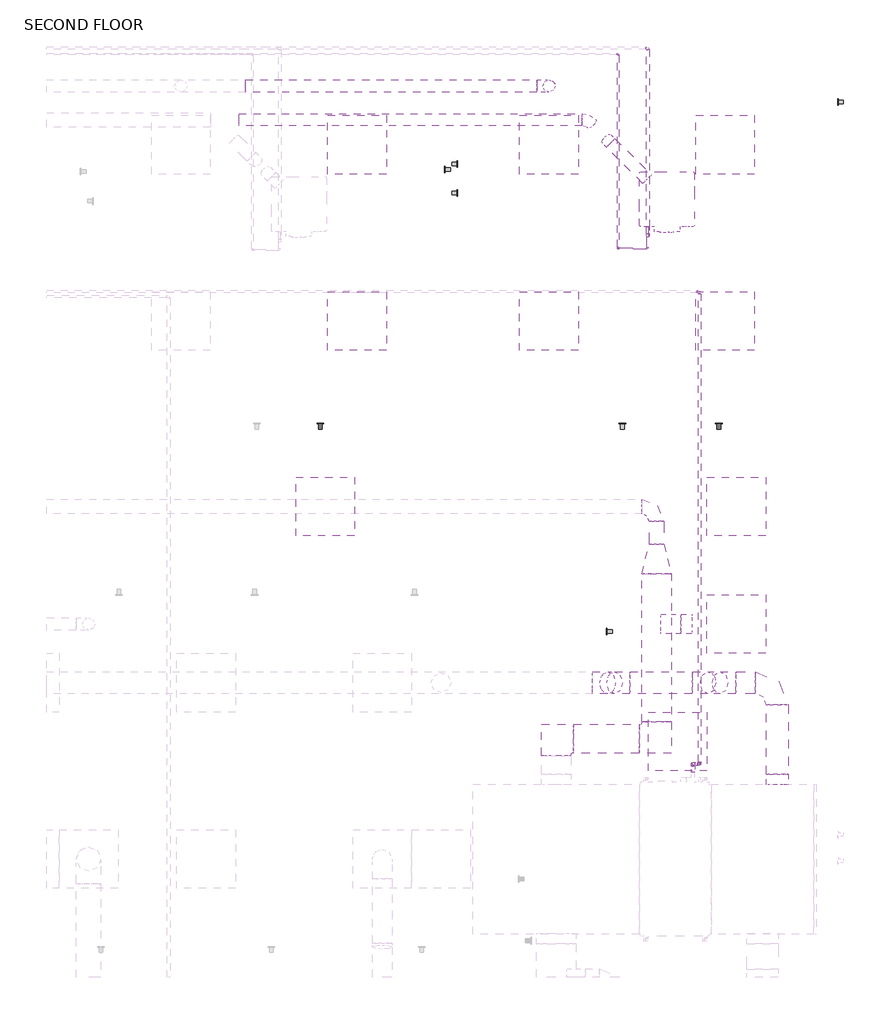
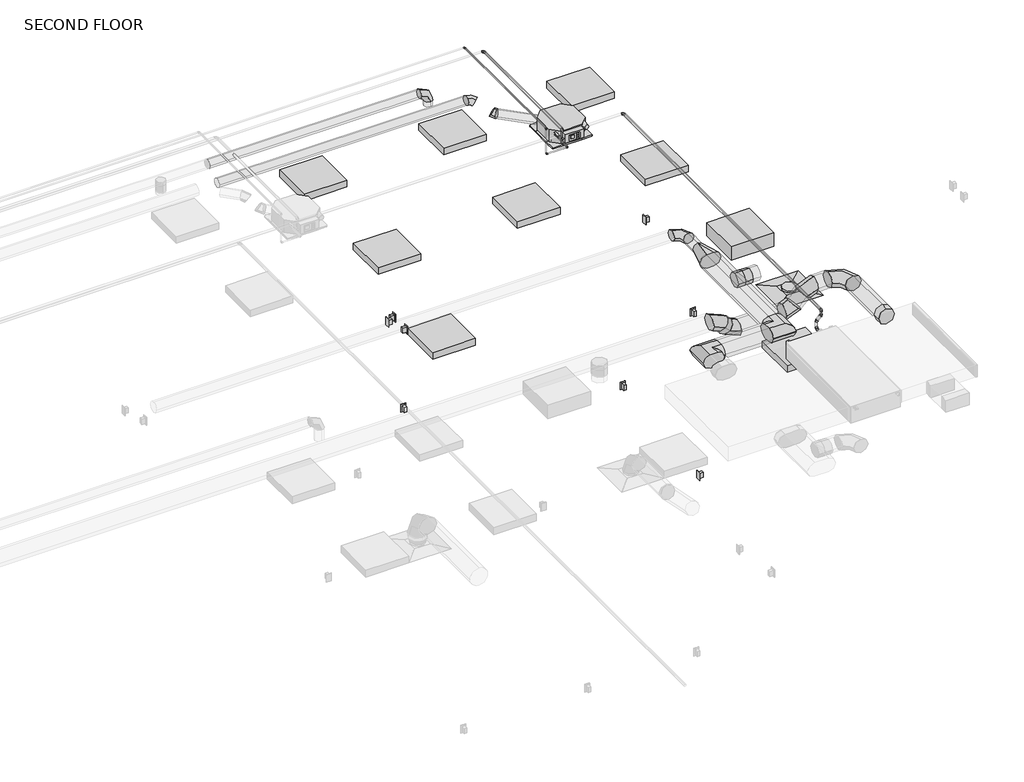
# One storey, part 12 of 12: 14 duct fittings, 13 duct segments, 13 pipe fittings, 11 pipe segments, 9 light fixtures, 6 proxies, 2 switching devices, 1 air terminal, 1 electric appliance.
"""IFC4 building model written with IfcOpenShell, lengths in millimetres."""

from ifc_helpers import new_model, si_unit, point, frame, frame_2d, origin, place, context, project, spatial, polyline, circle_curve, trimmed, segment, composite_curve, outline, extrude, transform, mapped, element, save
from components import air_terminal_e9020785, mechanical_equipment_2d84379e, duplex_receptacle_countertop_10251bba, oval_elbow_mitered_standard_b72006ba, oval_to_round_transition_length_standard_34fdf921, round_elbow_1_d_df495868, round_elbow_1_d_b37ad80b, round_elbow_1_d_c80420c1, round_elbow_1_d_2e2412f0, round_elbow_1_d_fb0a9a06, round_elbow_1_d_45990e82, round_takeoff_standard_affb11f8, round_takeoff_standard_bde3aeed, telephone_outlet_data_plain_18c24199, troffer_corner_insert_2x2_3_lamp_emergency_29e3a813, troffer_corner_insert_2x2_3lamp_e67c7f8f, elbow_generic_standard_1964ee4a, elbow_generic_standard_a6ae4ebe, elbow_generic_standard_39713109, elbow_generic_standard_c06ac706, elbow_generic_standard_a088f956, transition_generic_standard_64286003

model = new_model("IFC4")

# Units and contexts
model_context = context("Model", 3, world=origin())
ifc_project = project(units=[si_unit("LENGTHUNIT", "METRE", prefix="MILLI")], contexts=[model_context])

# Site, building, storey
site = spatial("IfcSite", under=ifc_project)
building = spatial("IfcBuilding", under=site)
storey = spatial("IfcBuildingStorey", under=building, Name="SECOND FLOOR", Elevation=34544.0)

# Air terminal
placement = place(None, origin())
air_terminal_shape = air_terminal_e9020785(model_context)
element("IfcAirTerminal", 1, ObjectType="Supply Diffuser - Rectangular Face Round Neck - Hosted : 24\"x24\" Face 8\" Neck - Hosted", at=placement, inside=storey, context=model_context, shape_type="MappedRepresentation", body=[
    mapped(air_terminal_shape, transform((12392.9795393, 1686.9195005, 37287.2), x_axis=(-1.0, 0.0, 0.0), y_axis=(0.0, 1.0, 0.0), z_axis=(0.0, 0.0, -1.0))),
])

# Proxies
mechanical_equipment_shape = mechanical_equipment_2d84379e(model_context)
element("IfcBuildingElementProxy", 2, Name="PLFY-P-NCMU-E_4-way_24x24 : PLFY-P12NCMU-E", ObjectType="PLFY-P-NCMU-E_4-way_24x24 : PLFY-P12NCMU-E", at=placement, inside=storey, context=model_context, shape_type="MappedRepresentation", body=[
    mapped(mechanical_equipment_shape, transform((11673.0482893, 6163.5961456, 37287.2), x_axis=(-1.0, 0.0, 0.0), y_axis=(0.0, 1.0, 0.0), z_axis=(0.0, 0.0, -1.0))),
])
duplex_receptacle_countertop_shape = duplex_receptacle_countertop_10251bba(model_context)
element("IfcBuildingElementProxy", 3, Name="Duplex Receptacle : Standard", ObjectType="Duplex Receptacle : Standard", at=placement, inside=storey, context=model_context, shape_type="MappedRepresentation", body=[
    mapped(duplex_receptacle_countertop_shape, transform((9370.3795393, 6403.4699415, 35001.2), x_axis=(0.0, -1.0, 0.0), y_axis=(0.0, 0.0, 1.0), z_axis=(-1.0, 0.0, 0.0))),
])
element("IfcBuildingElementProxy", 4, Name="Duplex Receptacle : Standard", ObjectType="Duplex Receptacle : Standard", at=placement, inside=storey, context=model_context, shape_type="MappedRepresentation", body=[
    mapped(duplex_receptacle_countertop_shape, transform((9494.2045393, 6160.5030669, 35001.2), x_axis=(0.0, 1.0, 0.0), y_axis=(0.0, 0.0, 1.0), z_axis=(1.0, 0.0, 0.0))),
])
element("IfcBuildingElementProxy", 5, Name="Duplex Receptacle : Standard", ObjectType="Duplex Receptacle : Standard", at=placement, inside=storey, context=model_context, shape_type="MappedRepresentation", body=[
    mapped(duplex_receptacle_countertop_shape, transform((13450.2545393, 7102.8018102, 34696.4), x_axis=(0.0, -1.0, 0.0), y_axis=(0.0, 0.0, 1.0), z_axis=(-1.0, 0.0, 0.0))),
])
element("IfcBuildingElementProxy", 6, Name="Duplex Receptacle : Standard", ObjectType="Duplex Receptacle : Standard", at=placement, inside=storey, context=model_context, shape_type="MappedRepresentation", body=[
    mapped(duplex_receptacle_countertop_shape, transform((11210.5552749, 3763.3695005, 35001.2), x_axis=(-1.0, 0.0, 0.0), y_axis=(0.0, 0.0, 1.0), z_axis=(0.0, 1.0, 0.0))),
])
element("IfcBuildingElementProxy", 7, Name="Duplex Receptacle : Standard", ObjectType="Duplex Receptacle : Standard", at=placement, inside=storey, context=model_context, shape_type="MappedRepresentation", body=[
    mapped(duplex_receptacle_countertop_shape, transform((11049.9545393, 1610.8311967, 35001.2), x_axis=(0.0, -1.0, 0.0), y_axis=(0.0, 0.0, 1.0), z_axis=(-1.0, 0.0, 0.0))),
])

# Duct fittings
oval_elbow_mitered_standard_shape = oval_elbow_mitered_standard_b72006ba(model_context)
element("IfcDuctFitting", 8, ObjectType="Oval Elbow - Mitered : Standard", at=placement, inside=storey, context=model_context, shape_type="MappedRepresentation", body=[
    mapped(oval_elbow_mitered_standard_shape, transform((10522.5076643, 496.5607041, 37712.65), x_axis=(-1.0, 0.0, 0.0), y_axis=(0.0, -1.0, 0.0), z_axis=(0.0, 0.0, 1.0))),
])
element("IfcDuctFitting", 9, ObjectType="Oval Elbow - Mitered : Standard", at=placement, inside=storey, context=model_context, shape_type="MappedRepresentation", body=[
    mapped(oval_elbow_mitered_standard_shape, transform((11563.9076643, 496.5607041, 37712.65), x_axis=(1.0, 0.0, 0.0), y_axis=(0.0, 1.0, 0.0), z_axis=(0.0, 0.0, 1.0))),
])
oval_to_round_transition_length_standard_shape = oval_to_round_transition_length_standard_34fdf921(model_context)
element("IfcDuctFitting", 10, ObjectType="Oval to Round Transition - Length : Standard", at=placement, inside=storey, context=model_context, shape_type="MappedRepresentation", body=[
    mapped(oval_to_round_transition_length_standard_shape, transform((11563.9076643, 2210.7945005, 37712.65), x_axis=(0.0, 1.0, 0.0), y_axis=(-1.0, 0.0, 0.0), z_axis=(0.0, 0.0, 1.0))),
])
round_elbow_1_d_shape = round_elbow_1_d_df495868(model_context)
element("IfcDuctFitting", 11, ObjectType="Round Elbow : 1 D", at=placement, inside=storey, context=model_context, shape_type="MappedRepresentation", body=[
    mapped(round_elbow_1_d_shape, transform((12818.4295393, 1077.3195005, 37751.54375), x_axis=(0.0, 1.0, 0.0), y_axis=(-1.0, 0.0, 0.0), z_axis=(0.0, 0.0, 1.0))),
])
round_elbow_1_d_2_shape = round_elbow_1_d_b37ad80b(model_context)
element("IfcDuctFitting", 12, ObjectType="Round Elbow : 1 D", at=placement, inside=storey, context=model_context, shape_type="MappedRepresentation", body=[
    mapped(round_elbow_1_d_2_shape, transform((11563.9076643, 2906.1195005, 37712.65), x_axis=(0.0, 1.0, 0.0), y_axis=(-1.0, 0.0, 0.0), z_axis=(0.0, 0.0, 1.0))),
])
round_elbow_1_d_3_shape = round_elbow_1_d_c80420c1(model_context)
element("IfcDuctFitting", 13, ObjectType="Round Elbow : 1 D", at=placement, inside=storey, context=model_context, shape_type="MappedRepresentation", body=[
    mapped(round_elbow_1_d_3_shape, transform((10448.2920393, 7268.5695005, 37592.0), x_axis=(0.0, 0.0, 1.0), y_axis=(-1.0, 0.0, 0.0), z_axis=(0.0, -1.0, 0.0))),
])
round_elbow_1_d_4_shape = round_elbow_1_d_2e2412f0(model_context)
element("IfcDuctFitting", 14, ObjectType="Round Elbow : 1 D", at=placement, inside=storey, context=model_context, shape_type="MappedRepresentation", body=[
    mapped(round_elbow_1_d_4_shape, transform((10992.1758808, 1077.3195005, 37693.6), x_axis=(1.0, 0.0, 0.0), y_axis=(0.0, 0.0, -1.0), z_axis=(0.0, 1.0, 0.0))),
])
element("IfcDuctFitting", 15, ObjectType="Round Elbow : 1 D", at=placement, inside=storey, context=model_context, shape_type="MappedRepresentation", body=[
    mapped(round_elbow_1_d_4_shape, transform((11195.3758808, 1077.3195005, 37490.4), x_axis=(0.7071067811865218, 0.0, -0.7071067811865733), y_axis=(0.7071067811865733, 0.0, 0.7071067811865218), z_axis=(0.0, -1.0, 0.0))),
])
element("IfcDuctFitting", 16, ObjectType="Round Elbow : 1 D", at=placement, inside=storey, context=model_context, shape_type="MappedRepresentation", body=[
    mapped(round_elbow_1_d_4_shape, transform((12031.0295393, 1077.3195005, 37490.4), x_axis=(1.0, 0.0, 0.0), y_axis=(0.0, 0.0, 1.0), z_axis=(0.0, -1.0, 0.0))),
])
element("IfcDuctFitting", 17, ObjectType="Round Elbow : 1 D", at=placement, inside=storey, context=model_context, shape_type="MappedRepresentation", body=[
    mapped(round_elbow_1_d_4_shape, transform((12292.1732893, 1077.3195005, 37751.54375), x_axis=(0.7071067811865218, 0.0, 0.7071067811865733), y_axis=(0.7071067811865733, 0.0, -0.7071067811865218), z_axis=(0.0, 1.0, 0.0))),
])
round_elbow_1_d_5_shape = round_elbow_1_d_fb0a9a06(model_context)
element("IfcDuctFitting", 18, ObjectType="Round Elbow : 1 D", at=placement, inside=storey, context=model_context, shape_type="MappedRepresentation", body=[
    mapped(round_elbow_1_d_5_shape, transform((11066.9872394, 6701.0361542, 37381.2593852), x_axis=(-0.7071067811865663, 0.7071067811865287, 0.0), y_axis=(0.0, 0.0, 1.0), z_axis=(0.7071067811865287, 0.7071067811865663, 0.0))),
])
round_elbow_1_d_6_shape = round_elbow_1_d_45990e82(model_context)
element("IfcDuctFitting", 19, ObjectType="Round Elbow : 1 D", at=placement, inside=storey, context=model_context, shape_type="MappedRepresentation", body=[
    mapped(round_elbow_1_d_6_shape, transform((10850.3811724, 6917.6422212, 37541.2), x_axis=(-0.626811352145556, 0.6268113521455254, 0.4628337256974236), y_axis=(-0.7791710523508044, -0.5042441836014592, -0.3723308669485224), z_axis=(0.0, -0.5940078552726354, 0.8044592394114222))),
])
round_takeoff_standard_shape = round_takeoff_standard_affb11f8(model_context)
element("IfcDuctFitting", 20, ObjectType="Round Takeoff : Standard", at=placement, inside=storey, context=model_context, shape_type="MappedRepresentation", body=[
    mapped(round_takeoff_standard_shape, transform((11716.3076643, 1686.9195005, 37712.65), x_axis=(1.0, 0.0, 0.0), y_axis=(0.0, -1.0, 0.0), z_axis=(0.0, 0.0, -1.0))),
])
round_takeoff_standard_2_shape = round_takeoff_standard_bde3aeed(model_context)
element("IfcDuctFitting", 21, ObjectType="Round Takeoff : Standard", at=placement, inside=storey, context=model_context, shape_type="MappedRepresentation", body=[
    mapped(round_takeoff_standard_2_shape, transform((12818.4295393, 26.3945005, 37751.54375), x_axis=(0.0, 1.0, 0.0), y_axis=(1.0, 0.0, 0.0), z_axis=(0.0, 0.0, -1.0))),
])

# Duct segments
element("IfcDuctSegment", 22, ObjectType="Mitered Elbows / Taps", at=placement, inside=storey, context=model_context, shape_type="SweptSolid", body=[
    extrude(outline(composite_curve([segment(polyline([(445.7607041, 37814.25), (547.3607041, 37814.25)]), True, "CONTINUOUS"), segment(trimmed(circle_curve(frame_2d((547.3607041, 37712.65)), 101.6), [point((547.3607041, 37814.25))], [point((648.9607041, 37712.65))], False, "CARTESIAN"), True, "CONTINUOUS"), segment(trimmed(circle_curve(frame_2d((547.3607041, 37712.65)), 101.6), [point((648.9607041, 37712.65))], [point((547.3607041, 37611.05))], False, "CARTESIAN"), True, "CONTINUOUS"), segment(polyline([(547.3607041, 37611.05), (445.7607041, 37611.05)]), True, "CONTINUOUS"), segment(trimmed(circle_curve(frame_2d((445.7607041, 37712.65)), 101.6), [point((445.7607041, 37611.05))], [point((344.1607041, 37712.65))], False, "CARTESIAN"), True, "CONTINUOUS"), segment(trimmed(circle_curve(frame_2d((445.7607041, 37712.65)), 101.6), [point((344.1607041, 37712.65))], [point((445.7607041, 37814.25))], False, "CARTESIAN"), True, "CONTINUOUS")], self_intersect=False)), frame((10700.3076643, 0.0, 0.0), z_axis=(1.0, 0.0, 0.0), x_axis=(0.0, 1.0, 0.0)), (0.0, 0.0, 1.0), 685.8),
])
element("IfcDuctSegment", 23, ObjectType="Mitered Elbows / Taps", at=placement, inside=storey, context=model_context, shape_type="SweptSolid", body=[
    extrude(outline(composite_curve([segment(polyline([(37814.25, 11614.7076643), (37814.25, 11513.1076643)]), True, "CONTINUOUS"), segment(trimmed(circle_curve(frame_2d((37712.65, 11513.1076643)), 101.6), [point((37814.25, 11513.1076643))], [point((37712.65, 11411.5076643))], False, "CARTESIAN"), True, "CONTINUOUS"), segment(trimmed(circle_curve(frame_2d((37712.65, 11513.1076643)), 101.6), [point((37712.65, 11411.5076643))], [point((37611.05, 11513.1076643))], False, "CARTESIAN"), True, "CONTINUOUS"), segment(polyline([(37611.05, 11513.1076643), (37611.05, 11614.7076643)]), True, "CONTINUOUS"), segment(trimmed(circle_curve(frame_2d((37712.65, 11614.7076643)), 101.6), [point((37611.05, 11614.7076643))], [point((37712.65, 11716.3076643))], False, "CARTESIAN"), True, "CONTINUOUS"), segment(trimmed(circle_curve(frame_2d((37712.65, 11614.7076643)), 101.6), [point((37712.65, 11716.3076643))], [point((37814.25, 11614.7076643))], False, "CARTESIAN"), True, "CONTINUOUS")], self_intersect=False)), frame((0.0, 674.3607041, 0.0), z_axis=(0.0, 1.0, 0.0), x_axis=(0.0, 0.0, 1.0)), (0.0, 0.0, 1.0), 1536.4337964),
])
element("IfcDuctSegment", 24, ObjectType="Taps / Short Radius", at=placement, inside=storey, context=model_context, shape_type="SweptSolid", body=[
    extrude(outline(composite_curve([segment(trimmed(circle_curve(frame_2d((37712.65, 11563.9076643)), 76.2), [point((37712.65, 11640.1076643))], [point((37788.85, 11563.9076643))], False, "CARTESIAN"), True, "CONTINUOUS"), segment(trimmed(circle_curve(frame_2d((37712.65, 11563.9076643)), 76.2), [point((37788.85, 11563.9076643))], [point((37712.65, 11487.7076643))], False, "CARTESIAN"), True, "CONTINUOUS"), segment(trimmed(circle_curve(frame_2d((37712.65, 11563.9076643)), 76.2), [point((37712.65, 11487.7076643))], [point((37636.45, 11563.9076643))], False, "CARTESIAN"), True, "CONTINUOUS"), segment(trimmed(circle_curve(frame_2d((37712.65, 11563.9076643)), 76.2), [point((37636.45, 11563.9076643))], [point((37712.65, 11640.1076643))], False, "CARTESIAN"), True, "CONTINUOUS")], self_intersect=False)), frame((0.0, 2515.5945005, 0.0), z_axis=(0.0, 1.0, 0.0), x_axis=(0.0, 0.0, 1.0)), (0.0, 0.0, 1.0), 238.125),
])
element("IfcDuctSegment", 25, ObjectType="Taps / Short Radius", at=placement, inside=storey, context=model_context, shape_type="SweptSolid", body=[
    extrude(outline(composite_curve([segment(trimmed(circle_curve(frame_2d((10448.2920393, 7268.5695005)), 63.5), [point((10448.2920393, 7332.0695005))], [point((10511.7920393, 7268.5695005))], False, "CARTESIAN"), True, "CONTINUOUS"), segment(trimmed(circle_curve(frame_2d((10448.2920393, 7268.5695005)), 63.5), [point((10511.7920393, 7268.5695005))], [point((10448.2920393, 7205.0695005))], False, "CARTESIAN"), True, "CONTINUOUS"), segment(trimmed(circle_curve(frame_2d((10448.2920393, 7268.5695005)), 63.5), [point((10448.2920393, 7205.0695005))], [point((10384.7920393, 7268.5695005))], False, "CARTESIAN"), True, "CONTINUOUS"), segment(trimmed(circle_curve(frame_2d((10448.2920393, 7268.5695005)), 63.5), [point((10384.7920393, 7268.5695005))], [point((10448.2920393, 7332.0695005))], False, "CARTESIAN"), True, "CONTINUOUS")], self_intersect=False)), frame((0.0, 0.0, 37388.8), z_axis=(0.0, 0.0, 1.0), x_axis=(1.0, 0.0, 0.0)), (0.0, 0.0, 1.0), 76.2),
])
element("IfcDuctSegment", 26, ObjectType="Taps / Short Radius", at=placement, inside=storey, context=model_context, shape_type="SweptSolid", body=[
    extrude(outline(composite_curve([segment(trimmed(circle_curve(frame_2d((7268.5695005, 37592.0)), 63.5), [point((7332.0695005, 37592.0))], [point((7268.5695005, 37528.5))], False, "CARTESIAN"), True, "CONTINUOUS"), segment(trimmed(circle_curve(frame_2d((7268.5695005, 37592.0)), 63.5), [point((7268.5695005, 37528.5))], [point((7205.0695005, 37592.0))], False, "CARTESIAN"), True, "CONTINUOUS"), segment(trimmed(circle_curve(frame_2d((7268.5695005, 37592.0)), 63.5), [point((7205.0695005, 37592.0))], [point((7268.5695005, 37655.5))], False, "CARTESIAN"), True, "CONTINUOUS"), segment(trimmed(circle_curve(frame_2d((7268.5695005, 37592.0)), 63.5), [point((7268.5695005, 37655.5))], [point((7332.0695005, 37592.0))], False, "CARTESIAN"), True, "CONTINUOUS")], self_intersect=False)), frame((7298.6920393, 0.0, 0.0), z_axis=(1.0, 0.0, 0.0), x_axis=(0.0, 1.0, 0.0)), (0.0, 0.0, 1.0), 3022.6),
])
element("IfcDuctSegment", 27, ObjectType="Taps / Short Radius", at=placement, inside=storey, context=model_context, shape_type="SweptSolid", body=[
    extrude(outline(composite_curve([segment(trimmed(circle_curve(frame_2d((1077.3195005, 37490.4)), 114.3), [point((963.0195005, 37490.4))], [point((1077.3195005, 37604.7))], False, "CARTESIAN"), True, "CONTINUOUS"), segment(trimmed(circle_curve(frame_2d((1077.3195005, 37490.4)), 114.3), [point((1077.3195005, 37604.7))], [point((1191.6195005, 37490.4))], False, "CARTESIAN"), True, "CONTINUOUS"), segment(trimmed(circle_curve(frame_2d((1077.3195005, 37490.4)), 114.3), [point((1191.6195005, 37490.4))], [point((1077.3195005, 37376.1))], False, "CARTESIAN"), True, "CONTINUOUS"), segment(trimmed(circle_curve(frame_2d((1077.3195005, 37490.4)), 114.3), [point((1077.3195005, 37376.1))], [point((963.0195005, 37490.4))], False, "CARTESIAN"), True, "CONTINUOUS")], self_intersect=False)), frame((11290.0651012, 0.0, 0.0), z_axis=(1.0, 0.0, 0.0), x_axis=(0.0, 1.0, 0.0)), (0.0, 0.0, 1.0), 646.2752178),
])
element("IfcDuctSegment", 28, ObjectType="Taps / Short Radius", at=placement, inside=storey, context=model_context, shape_type="SweptSolid", body=[
    extrude(outline(composite_curve([segment(trimmed(circle_curve(frame_2d((0.0, -114.3)), 114.3), [point((0.0, -228.6))], [point((-114.3, -114.3))], False, "CARTESIAN"), True, "CONTINUOUS"), segment(trimmed(circle_curve(frame_2d((0.0, -114.3)), 114.3), [point((-114.3, -114.3))], [point((0.0, 0.0))], False, "CARTESIAN"), True, "CONTINUOUS"), segment(trimmed(circle_curve(frame_2d((0.0, -114.3)), 114.3), [point((0.0, 0.0))], [point((114.3, -114.3))], False, "CARTESIAN"), True, "CONTINUOUS"), segment(trimmed(circle_curve(frame_2d((0.0, -114.3)), 114.3), [point((114.3, -114.3))], [point((0.0, -228.6))], False, "CARTESIAN"), True, "CONTINUOUS")], self_intersect=False)), frame((11128.420491, 1191.6195005, 37557.3553898), z_axis=(-0.7071067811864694, 0.0, 0.7071067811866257), x_axis=(0.7071067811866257, 0.0, 0.7071067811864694)), (0.0, 0.0, 1.0), 97.9897552),
])
element("IfcDuctSegment", 29, ObjectType="Taps / Short Radius", at=placement, inside=storey, context=model_context, shape_type="SweptSolid", body=[
    extrude(outline(composite_curve([segment(trimmed(circle_curve(frame_2d((1077.3195005, 37751.54375)), 114.3), [point((963.0195005, 37751.54375))], [point((1077.3195005, 37865.84375))], False, "CARTESIAN"), True, "CONTINUOUS"), segment(trimmed(circle_curve(frame_2d((1077.3195005, 37751.54375)), 114.3), [point((1077.3195005, 37865.84375))], [point((1191.6195005, 37751.54375))], False, "CARTESIAN"), True, "CONTINUOUS"), segment(trimmed(circle_curve(frame_2d((1077.3195005, 37751.54375)), 114.3), [point((1191.6195005, 37751.54375))], [point((1077.3195005, 37637.24375))], False, "CARTESIAN"), True, "CONTINUOUS"), segment(trimmed(circle_curve(frame_2d((1077.3195005, 37751.54375)), 114.3), [point((1077.3195005, 37637.24375))], [point((963.0195005, 37751.54375))], False, "CARTESIAN"), True, "CONTINUOUS")], self_intersect=False)), frame((12386.8625097, 0.0, 0.0), z_axis=(1.0, 0.0, 0.0), x_axis=(0.0, 1.0, 0.0)), (0.0, 0.0, 1.0), 202.9670296),
])
element("IfcDuctSegment", 30, ObjectType="Taps / Short Radius", at=placement, inside=storey, context=model_context, shape_type="SweptSolid", body=[
    extrude(outline(composite_curve([segment(trimmed(circle_curve(frame_2d((0.0, 114.3)), 114.3), [point((0.0, 0.0))], [point((-114.3, 114.3))], False, "CARTESIAN"), True, "CONTINUOUS"), segment(trimmed(circle_curve(frame_2d((0.0, 114.3)), 114.3), [point((-114.3, 114.3))], [point((0.0, 228.6))], False, "CARTESIAN"), True, "CONTINUOUS"), segment(trimmed(circle_curve(frame_2d((0.0, 114.3)), 114.3), [point((0.0, 228.6))], [point((114.3, 114.3))], False, "CARTESIAN"), True, "CONTINUOUS"), segment(trimmed(circle_curve(frame_2d((0.0, 114.3)), 114.3), [point((114.3, 114.3))], [point((0.0, 0.0))], False, "CARTESIAN"), True, "CONTINUOUS")], self_intersect=False)), frame((12097.9849291, 963.0195005, 37557.3553898), z_axis=(0.7071067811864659, 0.0, 0.7071067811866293), x_axis=(0.7071067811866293, 0.0, -0.7071067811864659)), (0.0, 0.0, 1.0), 179.9345923),
])
element("IfcDuctSegment", 31, ObjectType="Taps / Short Radius", at=placement, inside=storey, context=model_context, shape_type="SweptSolid", body=[
    extrude(outline(composite_curve([segment(trimmed(circle_curve(frame_2d((37751.54375, 12818.4295393)), 114.3), [point((37751.54375, 12704.1295393))], [point((37637.24375, 12818.4295393))], False, "CARTESIAN"), True, "CONTINUOUS"), segment(trimmed(circle_curve(frame_2d((37751.54375, 12818.4295393)), 114.3), [point((37637.24375, 12818.4295393))], [point((37751.54375, 12932.7295393))], False, "CARTESIAN"), True, "CONTINUOUS"), segment(trimmed(circle_curve(frame_2d((37751.54375, 12818.4295393)), 114.3), [point((37751.54375, 12932.7295393))], [point((37865.84375, 12818.4295393))], False, "CARTESIAN"), True, "CONTINUOUS"), segment(trimmed(circle_curve(frame_2d((37751.54375, 12818.4295393)), 114.3), [point((37865.84375, 12818.4295393))], [point((37751.54375, 12704.1295393))], False, "CARTESIAN"), True, "CONTINUOUS")], self_intersect=False)), frame((0.0, 127.9945005, 0.0), z_axis=(0.0, 1.0, 0.0), x_axis=(0.0, 0.0, 1.0)), (0.0, 0.0, 1.0), 720.725),
])
element("IfcDuctSegment", 32, ObjectType="Taps / Short Radius", at=placement, inside=storey, context=model_context, shape_type="SweptSolid", body=[
    extrude(outline(composite_curve([segment(trimmed(circle_curve(frame_2d((6917.6422212, 37541.2)), 63.5), [point((6854.1422212, 37541.2))], [point((6917.6422212, 37604.7))], False, "CARTESIAN"), True, "CONTINUOUS"), segment(trimmed(circle_curve(frame_2d((6917.6422212, 37541.2)), 63.5), [point((6917.6422212, 37604.7))], [point((6981.1422212, 37541.2))], False, "CARTESIAN"), True, "CONTINUOUS"), segment(trimmed(circle_curve(frame_2d((6917.6422212, 37541.2)), 63.5), [point((6981.1422212, 37541.2))], [point((6917.6422212, 37477.7))], False, "CARTESIAN"), True, "CONTINUOUS"), segment(trimmed(circle_curve(frame_2d((6917.6422212, 37541.2)), 63.5), [point((6917.6422212, 37477.7))], [point((6854.1422212, 37541.2))], False, "CARTESIAN"), True, "CONTINUOUS")], self_intersect=False)), frame((7232.1068186, 0.0, 0.0), z_axis=(1.0, 0.0, 0.0), x_axis=(0.0, 1.0, 0.0)), (0.0, 0.0, 1.0), 3557.4469422),
])
element("IfcDuctSegment", 33, ObjectType="Taps / Short Radius", at=placement, inside=storey, context=model_context, shape_type="SweptSolid", body=[
    extrude(outline(composite_curve([segment(trimmed(circle_curve(frame_2d((0.0, 63.5)), 63.5), [point((63.5, 63.5))], [point((0.0, 0.0))], False, "CARTESIAN"), True, "CONTINUOUS"), segment(trimmed(circle_curve(frame_2d((0.0, 63.5)), 63.5), [point((0.0, 0.0))], [point((-63.5, 63.5))], False, "CARTESIAN"), True, "CONTINUOUS"), segment(trimmed(circle_curve(frame_2d((0.0, 63.5)), 63.5), [point((-63.5, 63.5))], [point((0.0, 127.0))], False, "CARTESIAN"), True, "CONTINUOUS"), segment(trimmed(circle_curve(frame_2d((0.0, 63.5)), 63.5), [point((0.0, 127.0))], [point((63.5, 63.5))], False, "CARTESIAN"), True, "CONTINUOUS")], self_intersect=False)), frame((11466.1519112, 6301.8714823, 37444.7593852), z_axis=(-0.7071067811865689, 0.7071067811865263, 0.0), x_axis=(0.7071067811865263, 0.7071067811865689, 0.0)), (0.0, 0.0, 1.0), 533.3450184),
])
element("IfcDuctSegment", 34, ObjectType="Taps / Short Radius", at=placement, inside=storey, context=model_context, shape_type="SweptSolid", body=[
    extrude(outline(composite_curve([segment(trimmed(circle_curve(frame_2d((1686.9195005, 37712.65)), 101.6), [point((1585.3195005, 37712.65))], [point((1686.9195005, 37814.25))], False, "CARTESIAN"), True, "CONTINUOUS"), segment(trimmed(circle_curve(frame_2d((1686.9195005, 37712.65)), 101.6), [point((1686.9195005, 37814.25))], [point((1788.5195005, 37712.65))], False, "CARTESIAN"), True, "CONTINUOUS"), segment(trimmed(circle_curve(frame_2d((1686.9195005, 37712.65)), 101.6), [point((1788.5195005, 37712.65))], [point((1686.9195005, 37611.05))], False, "CARTESIAN"), True, "CONTINUOUS"), segment(trimmed(circle_curve(frame_2d((1686.9195005, 37712.65)), 101.6), [point((1686.9195005, 37611.05))], [point((1585.3195005, 37712.65))], False, "CARTESIAN"), True, "CONTINUOUS")], self_intersect=False)), frame((11817.9076643, 0.0, 0.0), z_axis=(1.0, 0.0, 0.0), x_axis=(0.0, 1.0, 0.0)), (0.0, 0.0, 1.0), 111.521875),
])

# Electric appliance
telephone_outlet_data_plain_shape = telephone_outlet_data_plain_18c24199(model_context)
element("IfcElectricAppliance", 35, ObjectType="Telephone Outlet - Data : Plain", at=placement, inside=storey, context=model_context, shape_type="MappedRepresentation", body=[
    mapped(telephone_outlet_data_plain_shape, transform((9494.2045393, 7338.4974336, 34143.95), x_axis=(0.0, 1.0, 0.0), y_axis=(0.0, 0.0, 1.0), z_axis=(1.0, 0.0, 0.0))),
])

# Light fixtures
troffer_corner_insert_2x2_3_lamp_emergency_shape = troffer_corner_insert_2x2_3_lamp_emergency_29e3a813(model_context)
element("IfcLightFixture", 36, ObjectType="Troffer Corner Insert : 2x2 3 Lamp Emergency", at=placement, inside=storey, context=model_context, shape_type="MappedRepresentation", body=[
    mapped(troffer_corner_insert_2x2_3_lamp_emergency_shape, transform((12392.9795393, 2906.1195005, 34848.8), x_axis=(1.0, 0.0, 0.0), y_axis=(0.0, 1.0, 0.0), z_axis=(0.0, 0.0, 1.0))),
])
troffer_corner_insert_2x2_3lamp_shape = troffer_corner_insert_2x2_3lamp_e67c7f8f(model_context)
element("IfcLightFixture", 37, ObjectType="Troffer Corner Insert : 2x2 3Lamp", at=placement, inside=storey, context=model_context, shape_type="MappedRepresentation", body=[
    mapped(troffer_corner_insert_2x2_3lamp_shape, transform((8455.9795393, 4830.1695005, 34848.8), x_axis=(1.0, 0.0, 0.0), y_axis=(0.0, 1.0, 0.0), z_axis=(0.0, 0.0, 1.0))),
])
element("IfcLightFixture", 38, ObjectType="Troffer Corner Insert : 2x2 3Lamp", at=placement, inside=storey, context=model_context, shape_type="MappedRepresentation", body=[
    mapped(troffer_corner_insert_2x2_3lamp_shape, transform((10448.2920393, 6658.9695005, 34848.8), x_axis=(1.0, 0.0, 0.0), y_axis=(0.0, 1.0, 0.0), z_axis=(0.0, 0.0, 1.0))),
])
element("IfcLightFixture", 39, ObjectType="Troffer Corner Insert : 2x2 3Lamp", at=placement, inside=storey, context=model_context, shape_type="MappedRepresentation", body=[
    mapped(troffer_corner_insert_2x2_3lamp_shape, transform((10448.2920393, 4830.1695005, 34848.8), x_axis=(1.0, 0.0, 0.0), y_axis=(0.0, 1.0, 0.0), z_axis=(0.0, 0.0, 1.0))),
])
element("IfcLightFixture", 40, ObjectType="Troffer Corner Insert : 2x2 3Lamp", at=placement, inside=storey, context=model_context, shape_type="MappedRepresentation", body=[
    mapped(troffer_corner_insert_2x2_3lamp_shape, transform((12277.0920393, 4830.1695005, 34848.8), x_axis=(1.0, 0.0, 0.0), y_axis=(0.0, 1.0, 0.0), z_axis=(0.0, 0.0, 1.0))),
])
element("IfcLightFixture", 41, ObjectType="Troffer Corner Insert : 2x2 3Lamp", at=placement, inside=storey, context=model_context, shape_type="MappedRepresentation", body=[
    mapped(troffer_corner_insert_2x2_3lamp_shape, transform((8125.7795393, 2906.1195005, 34848.8), x_axis=(1.0, 0.0, 0.0), y_axis=(0.0, 1.0, 0.0), z_axis=(0.0, 0.0, 1.0))),
])
element("IfcLightFixture", 42, ObjectType="Troffer Corner Insert : 2x2 3Lamp", at=placement, inside=storey, context=model_context, shape_type="MappedRepresentation", body=[
    mapped(troffer_corner_insert_2x2_3lamp_shape, transform((11783.3795393, 467.7195005, 34848.8), x_axis=(1.0, 0.0, 0.0), y_axis=(0.0, 1.0, 0.0), z_axis=(0.0, 0.0, 1.0))),
])
element("IfcLightFixture", 43, ObjectType="Troffer Corner Insert : 2x2 3Lamp", at=placement, inside=storey, context=model_context, shape_type="MappedRepresentation", body=[
    mapped(troffer_corner_insert_2x2_3lamp_shape, transform((12277.0920393, 6658.9695005, 34848.8), x_axis=(1.0, 0.0, 0.0), y_axis=(0.0, 1.0, 0.0), z_axis=(0.0, 0.0, 1.0))),
])
element("IfcLightFixture", 44, ObjectType="Troffer Corner Insert : 2x2 3Lamp", at=placement, inside=storey, context=model_context, shape_type="MappedRepresentation", body=[
    mapped(troffer_corner_insert_2x2_3lamp_shape, transform((8455.9795393, 6658.9695005, 34848.8), x_axis=(1.0, 0.0, 0.0), y_axis=(0.0, 1.0, 0.0), z_axis=(0.0, 0.0, 1.0))),
])

# Pipe fittings
elbow_generic_standard_shape = elbow_generic_standard_1964ee4a(model_context)
element("IfcPipeFitting", 45, ObjectType="Elbow - Generic : Standard", at=placement, inside=storey, context=model_context, shape_type="MappedRepresentation", body=[
    mapped(elbow_generic_standard_shape, transform((12011.1857893, 235.9784128, 37928.5500102), x_axis=(0.0, 0.0, -1.0), y_axis=(-1.0, 0.0, 0.0), z_axis=(0.0, 1.0, 0.0))),
])
elbow_generic_standard_2_shape = elbow_generic_standard_a6ae4ebe(model_context)
element("IfcPipeFitting", 46, ObjectType="Elbow - Generic : Standard", at=placement, inside=storey, context=model_context, shape_type="MappedRepresentation", body=[
    mapped(elbow_generic_standard_2_shape, transform((11942.9232893, 235.9784128, 37738.05), x_axis=(0.0, 1.0, 0.0), y_axis=(0.0, 0.0, 1.0), z_axis=(1.0, 0.0, 0.0))),
])
elbow_generic_standard_3_shape = elbow_generic_standard_39713109(model_context)
element("IfcPipeFitting", 47, ObjectType="Elbow - Generic : Standard", at=placement, inside=storey, context=model_context, shape_type="MappedRepresentation", body=[
    mapped(elbow_generic_standard_3_shape, transform((11942.9232893, 235.9784128, 37860.2875102), x_axis=(-0.707106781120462, 0.0, -0.7071067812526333), y_axis=(0.7071067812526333, 0.0, -0.707106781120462), z_axis=(0.0, -1.0, 0.0))),
])
elbow_generic_standard_4_shape = elbow_generic_standard_c06ac706(model_context)
element("IfcPipeFitting", 48, ObjectType="Elbow - Generic : Standard", at=placement, inside=storey, context=model_context, shape_type="MappedRepresentation", body=[
    mapped(elbow_generic_standard_4_shape, transform((11474.6107893, 7663.8570005, 37592.0), x_axis=(0.0, 1.0, 0.0), y_axis=(-1.0, 0.0, 0.0), z_axis=(0.0, 0.0, 1.0))),
])
element("IfcPipeFitting", 49, ObjectType="Elbow - Generic : Standard", at=placement, inside=storey, context=model_context, shape_type="MappedRepresentation", body=[
    mapped(elbow_generic_standard_4_shape, transform((11474.6107893, 5713.2325116, 37592.0), x_axis=(0.0, 0.0, 1.0), y_axis=(0.0, 1.0, 0.0), z_axis=(-1.0, 0.0, 0.0))),
])
element("IfcPipeFitting", 50, ObjectType="Elbow - Generic : Standard", at=placement, inside=storey, context=model_context, shape_type="MappedRepresentation", body=[
    mapped(elbow_generic_standard_4_shape, transform((12011.1857893, 5135.6701311, 37998.4), x_axis=(0.0, 1.0, 0.0), y_axis=(-1.0, 0.0, 0.0), z_axis=(0.0, 0.0, 1.0))),
])
element("IfcPipeFitting", 51, ObjectType="Elbow - Generic : Standard", at=placement, inside=storey, context=model_context, shape_type="MappedRepresentation", body=[
    mapped(elbow_generic_standard_4_shape, transform((11474.6107893, 5713.2325116, 37437.2187602), x_axis=(0.0, 0.0, -1.0), y_axis=(0.0, 1.0, 0.0), z_axis=(1.0, 0.0, 0.0))),
])
element("IfcPipeFitting", 52, ObjectType="Elbow - Generic : Standard", at=placement, inside=storey, context=model_context, shape_type="MappedRepresentation", body=[
    mapped(elbow_generic_standard_4_shape, transform((12011.1857893, 235.9784128, 37998.4), x_axis=(0.0, -1.0, 0.0), y_axis=(0.0, 0.0, -1.0), z_axis=(1.0, 0.0, 0.0))),
])
elbow_generic_standard_5_shape = elbow_generic_standard_a088f956(model_context)
element("IfcPipeFitting", 53, ObjectType="Elbow - Generic : Standard", at=placement, inside=storey, context=model_context, shape_type="MappedRepresentation", body=[
    mapped(elbow_generic_standard_5_shape, transform((11471.4357893, 5581.0570005, 37407.8499971), x_axis=(1.0, 0.0, 0.0), y_axis=(0.0, 0.9999999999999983, 5.759420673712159e-08), z_axis=(0.0, -5.759420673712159e-08, 0.9999999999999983))),
])
element("IfcPipeFitting", 54, ObjectType="Elbow - Generic : Standard", at=placement, inside=storey, context=model_context, shape_type="MappedRepresentation", body=[
    mapped(elbow_generic_standard_5_shape, transform((11166.6357893, 5581.0570005, 37407.8499971), x_axis=(-1.0, 0.0, 0.0), y_axis=(0.0, 0.0, 1.0), z_axis=(0.0, 1.0, 0.0))),
])
element("IfcPipeFitting", 55, ObjectType="Elbow - Generic : Standard", at=placement, inside=storey, context=model_context, shape_type="MappedRepresentation", body=[
    mapped(elbow_generic_standard_5_shape, transform((11166.6357893, 5581.0570005, 37795.2), x_axis=(0.0, 0.0, 1.0), y_axis=(0.0, 1.0, 0.0), z_axis=(-1.0, 0.0, 0.0))),
])
element("IfcPipeFitting", 56, ObjectType="Elbow - Generic : Standard", at=placement, inside=storey, context=model_context, shape_type="MappedRepresentation", body=[
    mapped(elbow_generic_standard_5_shape, transform((11166.6357893, 7600.3570005, 37795.2), x_axis=(0.0, 1.0, 0.0), y_axis=(-1.0, 0.0, 0.0), z_axis=(0.0, 0.0, 1.0))),
])
transition_generic_standard_shape = transition_generic_standard_64286003(model_context)
element("IfcPipeFitting", 57, ObjectType="Transition - Generic : Standard", at=placement, inside=storey, context=model_context, shape_type="MappedRepresentation", body=[
    mapped(transition_generic_standard_shape, transform((12005.1412055, 235.9784128, 37922.5054264), x_axis=(-0.7071067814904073, 0.0, -0.707106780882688), y_axis=(0.0, -1.0000000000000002, 0.0), z_axis=(-0.707106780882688, 0.0, 0.7071067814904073))),
])

# Pipe segments
element("IfcPipeSegment", 58, ObjectType="Copper Tubing", at=placement, inside=storey, context=model_context, shape_type="SweptSolid", body=[
    extrude(outline(composite_curve([segment(trimmed(circle_curve(frame_2d((37592.0, 11474.6107893)), 14.2875), [point((37592.0, 11488.8982893))], [point((37606.2875, 11474.6107893))], False, "CARTESIAN"), True, "CONTINUOUS"), segment(trimmed(circle_curve(frame_2d((37592.0, 11474.6107893)), 14.2875), [point((37606.2875, 11474.6107893))], [point((37592.0, 11460.3232893))], False, "CARTESIAN"), True, "CONTINUOUS"), segment(trimmed(circle_curve(frame_2d((37592.0, 11474.6107893)), 14.2875), [point((37592.0, 11460.3232893))], [point((37577.7125, 11474.6107893))], False, "CARTESIAN"), True, "CONTINUOUS"), segment(trimmed(circle_curve(frame_2d((37592.0, 11474.6107893)), 14.2875), [point((37577.7125, 11474.6107893))], [point((37592.0, 11488.8982893))], False, "CARTESIAN"), True, "CONTINUOUS")], self_intersect=False)), frame((0.0, 5733.8700116, 0.0), z_axis=(0.0, 1.0, 0.0), x_axis=(0.0, 0.0, 1.0)), (0.0, 0.0, 1.0), 1909.3494889),
])
element("IfcPipeSegment", 59, ObjectType="Copper Tubing", at=placement, inside=storey, context=model_context, shape_type="SweptSolid", body=[
    extrude(outline(composite_curve([segment(trimmed(circle_curve(frame_2d((37998.4, 12011.1857893)), 14.2875), [point((37998.4, 12025.4732893))], [point((38012.6875, 12011.1857893))], False, "CARTESIAN"), True, "CONTINUOUS"), segment(trimmed(circle_curve(frame_2d((37998.4, 12011.1857893)), 14.2875), [point((38012.6875, 12011.1857893))], [point((37998.4, 11996.8982893))], False, "CARTESIAN"), True, "CONTINUOUS"), segment(trimmed(circle_curve(frame_2d((37998.4, 12011.1857893)), 14.2875), [point((37998.4, 11996.8982893))], [point((37984.1125, 12011.1857893))], False, "CARTESIAN"), True, "CONTINUOUS"), segment(trimmed(circle_curve(frame_2d((37998.4, 12011.1857893)), 14.2875), [point((37984.1125, 12011.1857893))], [point((37998.4, 12025.4732893))], False, "CARTESIAN"), True, "CONTINUOUS")], self_intersect=False)), frame((0.0, 256.6159128, 0.0), z_axis=(0.0, 1.0, 0.0), x_axis=(0.0, 0.0, 1.0)), (0.0, 0.0, 1.0), 4858.4167183),
])
element("IfcPipeSegment", 60, ObjectType="Copper Tubing", at=placement, inside=storey, context=model_context, shape_type="SweptSolid", body=[
    extrude(outline(composite_curve([segment(trimmed(circle_curve(frame_2d((37407.8500102, 11471.4357893)), 7.9375), [point((37407.8500102, 11463.4982893))], [point((37399.9125102, 11471.4357893))], False, "CARTESIAN"), True, "CONTINUOUS"), segment(trimmed(circle_curve(frame_2d((37407.8500102, 11471.4357893)), 7.9375), [point((37399.9125102, 11471.4357893))], [point((37407.8500102, 11479.3732893))], False, "CARTESIAN"), True, "CONTINUOUS"), segment(trimmed(circle_curve(frame_2d((37407.8500102, 11471.4357893)), 7.9375), [point((37407.8500102, 11479.3732893))], [point((37415.7875102, 11471.4357893))], False, "CARTESIAN"), True, "CONTINUOUS"), segment(trimmed(circle_curve(frame_2d((37407.8500102, 11471.4357893)), 7.9375), [point((37415.7875102, 11471.4357893))], [point((37407.8500102, 11463.4982893))], False, "CARTESIAN"), True, "CONTINUOUS")], self_intersect=False)), frame((0.0, 5595.3445005, 0.0), z_axis=(0.0, 1.0, 0.0), x_axis=(0.0, 0.0, 1.0)), (0.0, 0.0, 1.0), 214.6743538),
])
element("IfcPipeSegment", 61, ObjectType="Copper Tubing", at=placement, inside=storey, context=model_context, shape_type="SweptSolid", body=[
    extrude(outline(composite_curve([segment(trimmed(circle_curve(frame_2d((5581.0570005, 37407.8499971)), 7.9375), [point((5588.9945005, 37407.8499971))], [point((5581.0570005, 37399.9124971))], False, "CARTESIAN"), True, "CONTINUOUS"), segment(trimmed(circle_curve(frame_2d((5581.0570005, 37407.8499971)), 7.9375), [point((5581.0570005, 37399.9124971))], [point((5573.1195005, 37407.8499971))], False, "CARTESIAN"), True, "CONTINUOUS"), segment(trimmed(circle_curve(frame_2d((5581.0570005, 37407.8499971)), 7.9375), [point((5573.1195005, 37407.8499971))], [point((5581.0570005, 37415.7874971))], False, "CARTESIAN"), True, "CONTINUOUS"), segment(trimmed(circle_curve(frame_2d((5581.0570005, 37407.8499971)), 7.9375), [point((5581.0570005, 37415.7874971))], [point((5588.9945005, 37407.8499971))], False, "CARTESIAN"), True, "CONTINUOUS")], self_intersect=False)), frame((11180.9232893, 0.0, 0.0), z_axis=(1.0, 0.0, 0.0), x_axis=(0.0, 1.0, 0.0)), (0.0, 0.0, 1.0), 276.225),
])
element("IfcPipeSegment", 62, ObjectType="Copper Tubing", at=placement, inside=storey, context=model_context, shape_type="SweptSolid", body=[
    extrude(outline(composite_curve([segment(trimmed(circle_curve(frame_2d((37795.2, 11166.6357893)), 7.9375), [point((37795.2, 11174.5732893))], [point((37803.1375, 11166.6357893))], False, "CARTESIAN"), True, "CONTINUOUS"), segment(trimmed(circle_curve(frame_2d((37795.2, 11166.6357893)), 7.9375), [point((37803.1375, 11166.6357893))], [point((37795.2, 11158.6982893))], False, "CARTESIAN"), True, "CONTINUOUS"), segment(trimmed(circle_curve(frame_2d((37795.2, 11166.6357893)), 7.9375), [point((37795.2, 11158.6982893))], [point((37787.2625, 11166.6357893))], False, "CARTESIAN"), True, "CONTINUOUS"), segment(trimmed(circle_curve(frame_2d((37795.2, 11166.6357893)), 7.9375), [point((37787.2625, 11166.6357893))], [point((37795.2, 11174.5732893))], False, "CARTESIAN"), True, "CONTINUOUS")], self_intersect=False)), frame((0.0, 5595.3445005, 0.0), z_axis=(0.0, 1.0, 0.0), x_axis=(0.0, 0.0, 1.0)), (0.0, 0.0, 1.0), 1990.725),
])
element("IfcPipeSegment", 63, ObjectType="Copper Tubing", at=placement, inside=storey, context=model_context, shape_type="SweptSolid", body=[
    extrude(outline(composite_curve([segment(trimmed(circle_curve(frame_2d((11166.6357893, 5581.0570005)), 7.9375), [point((11158.6982893, 5581.0570005))], [point((11166.6357893, 5588.9945005))], False, "CARTESIAN"), True, "CONTINUOUS"), segment(trimmed(circle_curve(frame_2d((11166.6357893, 5581.0570005)), 7.9375), [point((11166.6357893, 5588.9945005))], [point((11174.5732893, 5581.0570005))], False, "CARTESIAN"), True, "CONTINUOUS"), segment(trimmed(circle_curve(frame_2d((11166.6357893, 5581.0570005)), 7.9375), [point((11174.5732893, 5581.0570005))], [point((11166.6357893, 5573.1195005))], False, "CARTESIAN"), True, "CONTINUOUS"), segment(trimmed(circle_curve(frame_2d((11166.6357893, 5581.0570005)), 7.9375), [point((11166.6357893, 5573.1195005))], [point((11158.6982893, 5581.0570005))], False, "CARTESIAN"), True, "CONTINUOUS")], self_intersect=False)), frame((0.0, 0.0, 37422.1374971), z_axis=(0.0, 0.0, 1.0), x_axis=(1.0, 0.0, 0.0)), (0.0, 0.0, 1.0), 358.7750029),
])
element("IfcPipeSegment", 64, ObjectType="Copper Tubing", at=placement, inside=storey, context=model_context, shape_type="SweptSolid", body=[
    extrude(outline(composite_curve([segment(trimmed(circle_curve(frame_2d((37437.2187602, 11474.6107893)), 14.2875), [point((37437.2187602, 11460.3232893))], [point((37422.9312602, 11474.6107893))], False, "CARTESIAN"), True, "CONTINUOUS"), segment(trimmed(circle_curve(frame_2d((37437.2187602, 11474.6107893)), 14.2875), [point((37422.9312602, 11474.6107893))], [point((37437.2187602, 11488.8982893))], False, "CARTESIAN"), True, "CONTINUOUS"), segment(trimmed(circle_curve(frame_2d((37437.2187602, 11474.6107893)), 14.2875), [point((37437.2187602, 11488.8982893))], [point((37451.5062602, 11474.6107893))], False, "CARTESIAN"), True, "CONTINUOUS"), segment(trimmed(circle_curve(frame_2d((37437.2187602, 11474.6107893)), 14.2875), [point((37451.5062602, 11474.6107893))], [point((37437.2187602, 11460.3232893))], False, "CARTESIAN"), True, "CONTINUOUS")], self_intersect=False)), frame((0.0, 5733.8700116, 0.0), z_axis=(0.0, 1.0, 0.0), x_axis=(0.0, 0.0, 1.0)), (0.0, 0.0, 1.0), 76.1488427),
])
element("IfcPipeSegment", 65, ObjectType="Copper Tubing", at=placement, inside=storey, context=model_context, shape_type="SweptSolid", body=[
    extrude(outline(composite_curve([segment(trimmed(circle_curve(frame_2d((37738.05, 11942.9232893)), 17.4625), [point((37738.05, 11960.3857893))], [point((37755.5125, 11942.9232893))], False, "CARTESIAN"), True, "CONTINUOUS"), segment(trimmed(circle_curve(frame_2d((37738.05, 11942.9232893)), 17.4625), [point((37755.5125, 11942.9232893))], [point((37738.05, 11925.4607893))], False, "CARTESIAN"), True, "CONTINUOUS"), segment(trimmed(circle_curve(frame_2d((37738.05, 11942.9232893)), 17.4625), [point((37738.05, 11925.4607893))], [point((37720.5875, 11942.9232893))], False, "CARTESIAN"), True, "CONTINUOUS"), segment(trimmed(circle_curve(frame_2d((37738.05, 11942.9232893)), 17.4625), [point((37720.5875, 11942.9232893))], [point((37738.05, 11960.3857893))], False, "CARTESIAN"), True, "CONTINUOUS")], self_intersect=False)), frame((0.0, 148.6320005, 0.0), z_axis=(0.0, 1.0, 0.0), x_axis=(0.0, 0.0, 1.0)), (0.0, 0.0, 1.0), 63.5339123),
])
element("IfcPipeSegment", 66, ObjectType="Copper Tubing", at=placement, inside=storey, context=model_context, shape_type="SweptSolid", body=[
    extrude(outline(composite_curve([segment(trimmed(circle_curve(frame_2d((11942.9232893, 235.9784128)), 17.4625), [point((11960.3857893, 235.9784128))], [point((11942.9232893, 218.5159128))], False, "CARTESIAN"), True, "CONTINUOUS"), segment(trimmed(circle_curve(frame_2d((11942.9232893, 235.9784128)), 17.4625), [point((11942.9232893, 218.5159128))], [point((11925.4607893, 235.9784128))], False, "CARTESIAN"), True, "CONTINUOUS"), segment(trimmed(circle_curve(frame_2d((11942.9232893, 235.9784128)), 17.4625), [point((11925.4607893, 235.9784128))], [point((11942.9232893, 253.4409128))], False, "CARTESIAN"), True, "CONTINUOUS"), segment(trimmed(circle_curve(frame_2d((11942.9232893, 235.9784128)), 17.4625), [point((11942.9232893, 253.4409128))], [point((11960.3857893, 235.9784128))], False, "CARTESIAN"), True, "CONTINUOUS")], self_intersect=False)), frame((0.0, 0.0, 37761.8625), z_axis=(0.0, 0.0, 1.0), x_axis=(1.0, 0.0, 0.0)), (0.0, 0.0, 1.0), 88.5615497),
])
element("IfcPipeSegment", 67, ObjectType="Copper Tubing", at=placement, inside=storey, context=model_context, shape_type="SweptSolid", body=[
    extrude(outline(composite_curve([segment(trimmed(circle_curve(frame_2d((12011.1857893, 235.9784128)), 14.2875), [point((12025.4732893, 235.9784128))], [point((12011.1857893, 221.6909128))], False, "CARTESIAN"), True, "CONTINUOUS"), segment(trimmed(circle_curve(frame_2d((12011.1857893, 235.9784128)), 14.2875), [point((12011.1857893, 221.6909128))], [point((11996.8982893, 235.9784128))], False, "CARTESIAN"), True, "CONTINUOUS"), segment(trimmed(circle_curve(frame_2d((12011.1857893, 235.9784128)), 14.2875), [point((11996.8982893, 235.9784128))], [point((12011.1857893, 250.2659128))], False, "CARTESIAN"), True, "CONTINUOUS"), segment(trimmed(circle_curve(frame_2d((12011.1857893, 235.9784128)), 14.2875), [point((12011.1857893, 250.2659128))], [point((12025.4732893, 235.9784128))], False, "CARTESIAN"), True, "CONTINUOUS")], self_intersect=False)), frame((0.0, 0.0, 37937.0983426), z_axis=(0.0, 0.0, 1.0), x_axis=(1.0, 0.0, 0.0)), (0.0, 0.0, 1.0), 40.6641574),
])
element("IfcPipeSegment", 68, ObjectType="Copper Tubing", at=placement, inside=storey, context=model_context, shape_type="SweptSolid", body=[
    extrude(outline(composite_curve([segment(trimmed(circle_curve(frame_2d((0.0, -17.4625)), 17.4625), [point((0.0, 0.0))], [point((17.4624999, -17.4625))], False, "CARTESIAN"), True, "CONTINUOUS"), segment(trimmed(circle_curve(frame_2d((0.0, -17.4625)), 17.4625), [point((17.4624999, -17.4625))], [point((0.0, -34.925))], False, "CARTESIAN"), True, "CONTINUOUS"), segment(trimmed(circle_curve(frame_2d((0.0, -17.4625)), 17.4625), [point((0.0, -34.925))], [point((-17.4625, -17.4625))], False, "CARTESIAN"), True, "CONTINUOUS"), segment(trimmed(circle_curve(frame_2d((0.0, -17.4625)), 17.4625), [point((-17.4625, -17.4625))], [point((0.0, 0.0))], False, "CARTESIAN"), True, "CONTINUOUS")], self_intersect=False)), frame((11949.8978091, 253.4409128, 37867.2620299), z_axis=(0.707106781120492, 0.0, 0.7071067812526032), x_axis=(0.7071067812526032, 0.0, -0.707106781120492)), (0.0, 0.0, 1.0), 69.3947104),
])

# Switching devices
element("IfcSwitchingDevice", 69, ObjectType="Lighting Switches : Single Pole", at=placement, inside=storey, context=model_context, shape_type="MappedRepresentation", body=[
    mapped(duplex_receptacle_countertop_shape, transform((8073.8252178, 3763.3695005, 35763.2), x_axis=(-1.0, 0.0, 0.0), y_axis=(0.0, 0.0, 1.0), z_axis=(0.0, 1.0, 0.0))),
])
element("IfcSwitchingDevice", 70, ObjectType="Lighting Switches : Single Pole", at=placement, inside=storey, context=model_context, shape_type="MappedRepresentation", body=[
    mapped(duplex_receptacle_countertop_shape, transform((12211.4015088, 3763.3695005, 35763.2), x_axis=(-1.0, 0.0, 0.0), y_axis=(0.0, 0.0, 1.0), z_axis=(0.0, 1.0, 0.0))),
])

save(model, "model.ifc")
